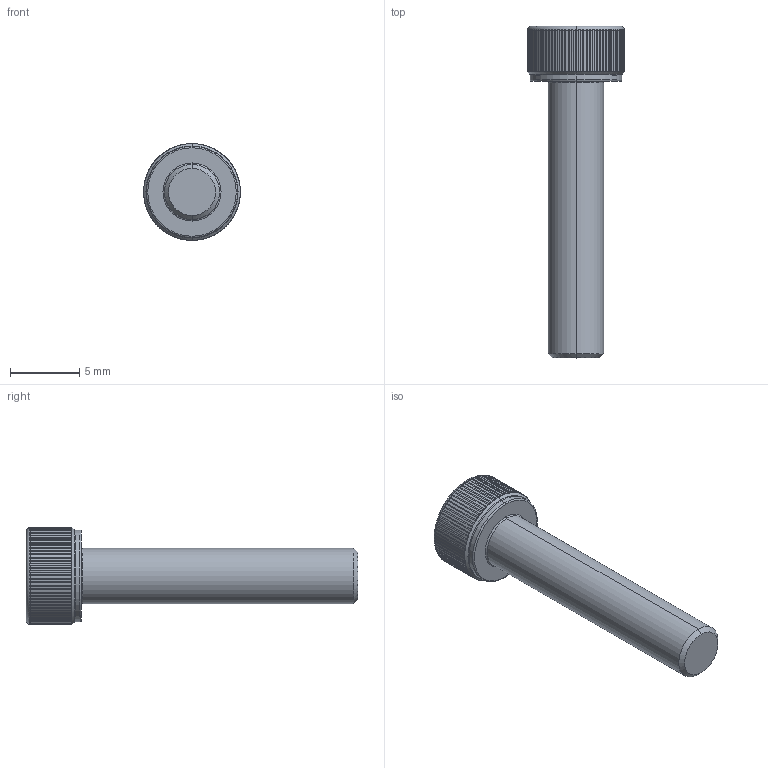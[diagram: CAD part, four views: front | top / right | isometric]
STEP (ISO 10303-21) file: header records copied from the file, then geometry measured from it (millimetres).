
FILE_DESCRIPTION (( 'STEP AP203' ), '1' );
FILE_NAME ('LGDT-304-M4x20.STEP', '2026-08-10T01:36:26', ( '' ), ( '' ), 'SwSTEP 2.0', 'SolidWorks 2020', '' );
FILE_SCHEMA (( 'CONFIG_CONTROL_DESIGN' ));
Length unit declared in the file: millimetre
Products named in the file (1): LGDT-304-M4x20
Bounding box: 7 x 24 x 7 mm (x, y, z)
Volume: 382 mm3; surface area: 432.4 mm2
Topology: 1 solids, 1 shells, 216 faces, 612 edges, 400 vertices
Faces by surface type: cylinder 187, cone 11, plane 10, torus 8
Entity records: 10634 total; most frequent: CARTESIAN_POINT 5163, ORIENTED_EDGE 1224, DIRECTION 1048, EDGE_CURVE 612, AXIS2_PLACEMENT_3D 422, VERTEX_POINT 400, EDGE_LOOP 218, ADVANCED_FACE 216
